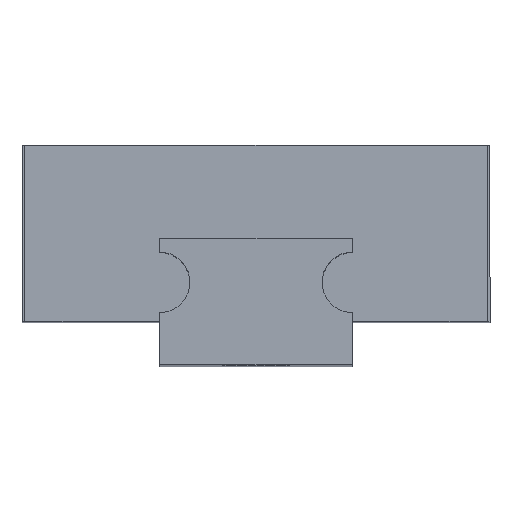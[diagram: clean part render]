
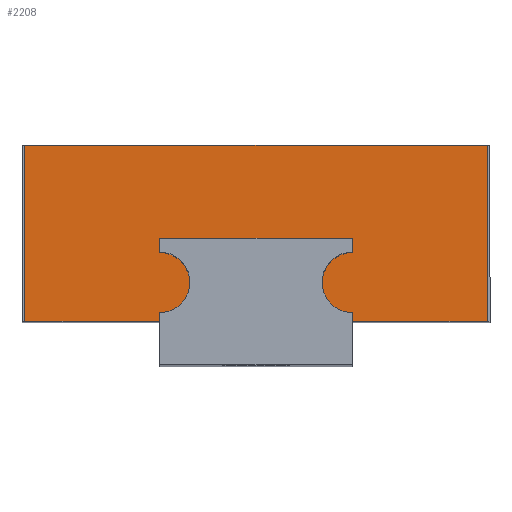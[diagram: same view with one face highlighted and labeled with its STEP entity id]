
A CAD part, top view. The second image highlights one B-rep face of the part: STEP entity #2208.
In plain terms, the highlighted planar face has unit normal (0, 0, 1).
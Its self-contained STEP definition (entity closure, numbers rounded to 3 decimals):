
#17 = CARTESIAN_POINT ( 'NONE',  ( -3.5, -2.9, 16.4 ) ) ;
#22 = DIRECTION ( 'NONE',  ( 1., 0., 0. ) ) ;
#27 = VERTEX_POINT ( 'NONE', #1662 ) ;
#57 = VECTOR ( 'NONE', #1113, 1000. ) ;
#69 = CARTESIAN_POINT ( 'NONE',  ( 3.5, -2.9, 16.4 ) ) ;
#82 = CIRCLE ( 'NONE', #1192, 1.1 ) ;
#127 = VECTOR ( 'NONE', #757, 1000. ) ;
#167 = LINE ( 'NONE', #2499, #1027 ) ;
#181 = CARTESIAN_POINT ( 'NONE',  ( -3.5, -1.8, 16.4 ) ) ;
#185 = VECTOR ( 'NONE', #2794, 1000. ) ;
#198 = CARTESIAN_POINT ( 'NONE',  ( -3.5, -0.2, 16.4 ) ) ;
#357 = VECTOR ( 'NONE', #2426, 1000. ) ;
#382 = LINE ( 'NONE', #69, #1255 ) ;
#388 = CARTESIAN_POINT ( 'NONE',  ( -2.4, -1.8, 16.4 ) ) ;
#394 = LINE ( 'NONE', #1892, #185 ) ;
#433 = VERTEX_POINT ( 'NONE', #1563 ) ;
#437 = DIRECTION ( 'NONE',  ( 0., 0., -1. ) ) ;
#471 = VERTEX_POINT ( 'NONE', #1342 ) ;
#575 = EDGE_CURVE ( 'NONE', #2496, #1284, #167, .T. ) ;
#646 = CARTESIAN_POINT ( 'NONE',  ( 8.4, 3.2, 16.4 ) ) ;
#684 = ORIENTED_EDGE ( 'NONE', *, *, #2788, .F. ) ;
#688 = ORIENTED_EDGE ( 'NONE', *, *, #989, .F. ) ;
#711 = ORIENTED_EDGE ( 'NONE', *, *, #994, .F. ) ;
#724 = VERTEX_POINT ( 'NONE', #1431 ) ;
#757 = DIRECTION ( 'NONE',  ( -1., 0., 0. ) ) ;
#793 = EDGE_CURVE ( 'NONE', #2492, #471, #1502, .T. ) ;
#843 = VECTOR ( 'NONE', #1815, 1000. ) ;
#844 = FACE_OUTER_BOUND ( 'NONE', #2702, .T. ) ;
#912 = VECTOR ( 'NONE', #1979, 1000. ) ;
#917 = LINE ( 'NONE', #2661, #1604 ) ;
#920 = ORIENTED_EDGE ( 'NONE', *, *, #1012, .T. ) ;
#923 = CARTESIAN_POINT ( 'NONE',  ( 3.5, -3.2, 16.4 ) ) ;
#928 = AXIS2_PLACEMENT_3D ( 'NONE', #181, #1721, #2147 ) ;
#989 = EDGE_CURVE ( 'NONE', #27, #2492, #2311, .T. ) ;
#994 = EDGE_CURVE ( 'NONE', #1284, #1506, #917, .T. ) ;
#1012 = EDGE_CURVE ( 'NONE', #724, #1644, #1199, .T. ) ;
#1027 = VECTOR ( 'NONE', #1615, 1000. ) ;
#1035 = EDGE_CURVE ( 'NONE', #1506, #27, #2733, .T. ) ;
#1097 = CARTESIAN_POINT ( 'NONE',  ( -3.5, -1.8, 16.4 ) ) ;
#1113 = DIRECTION ( 'NONE',  ( 0., -1., 0. ) ) ;
#1191 = ORIENTED_EDGE ( 'NONE', *, *, #2418, .F. ) ;
#1192 = AXIS2_PLACEMENT_3D ( 'NONE', #1276, #2256, #2562 ) ;
#1199 = LINE ( 'NONE', #646, #357 ) ;
#1242 = ORIENTED_EDGE ( 'NONE', *, *, #575, .F. ) ;
#1255 = VECTOR ( 'NONE', #2541, 1000. ) ;
#1260 = ORIENTED_EDGE ( 'NONE', *, *, #1393, .T. ) ;
#1270 = EDGE_CURVE ( 'NONE', #1644, #433, #1889, .T. ) ;
#1275 = CARTESIAN_POINT ( 'NONE',  ( -3.5, -3.2, 16.4 ) ) ;
#1276 = CARTESIAN_POINT ( 'NONE',  ( 3.5, -1.8, 16.4 ) ) ;
#1284 = VERTEX_POINT ( 'NONE', #1408 ) ;
#1331 = ORIENTED_EDGE ( 'NONE', *, *, #1270, .T. ) ;
#1337 = ORIENTED_EDGE ( 'NONE', *, *, #1672, .F. ) ;
#1342 = CARTESIAN_POINT ( 'NONE',  ( -3.5, -2.9, 16.4 ) ) ;
#1383 = CARTESIAN_POINT ( 'NONE',  ( 3.5, -2.9, 16.4 ) ) ;
#1393 = EDGE_CURVE ( 'NONE', #433, #2212, #394, .T. ) ;
#1408 = CARTESIAN_POINT ( 'NONE',  ( 3.5, -0.2, 16.4 ) ) ;
#1431 = CARTESIAN_POINT ( 'NONE',  ( 8.4, -3.2, 16.4 ) ) ;
#1437 = PLANE ( 'NONE',  #2185 ) ;
#1496 = LINE ( 'NONE', #17, #912 ) ;
#1502 = CIRCLE ( 'NONE', #928, 1.1 ) ;
#1506 = VERTEX_POINT ( 'NONE', #198 ) ;
#1507 = CARTESIAN_POINT ( 'NONE',  ( 8.4, 3.2, 16.4 ) ) ;
#1514 = AXIS2_PLACEMENT_3D ( 'NONE', #1097, #437, #22 ) ;
#1523 = LINE ( 'NONE', #2395, #2472 ) ;
#1533 = ORIENTED_EDGE ( 'NONE', *, *, #2576, .T. ) ;
#1545 = VERTEX_POINT ( 'NONE', #1275 ) ;
#1563 = CARTESIAN_POINT ( 'NONE',  ( -8.4, 3.2, 16.4 ) ) ;
#1604 = VECTOR ( 'NONE', #2682, 1000. ) ;
#1615 = DIRECTION ( 'NONE',  ( 0., 1., 0. ) ) ;
#1644 = VERTEX_POINT ( 'NONE', #1507 ) ;
#1649 = CARTESIAN_POINT ( 'NONE',  ( 0., 0., 16.4 ) ) ;
#1662 = CARTESIAN_POINT ( 'NONE',  ( -3.5, -0.7, 16.4 ) ) ;
#1672 = EDGE_CURVE ( 'NONE', #471, #1545, #1496, .T. ) ;
#1681 = ORIENTED_EDGE ( 'NONE', *, *, #793, .F. ) ;
#1721 = DIRECTION ( 'NONE',  ( 0., 0., -1. ) ) ;
#1815 = DIRECTION ( 'NONE',  ( 1., 0., 0. ) ) ;
#1866 = VERTEX_POINT ( 'NONE', #1383 ) ;
#1867 = CARTESIAN_POINT ( 'NONE',  ( -8.4, -3.2, 16.4 ) ) ;
#1889 = LINE ( 'NONE', #2296, #127 ) ;
#1892 = CARTESIAN_POINT ( 'NONE',  ( -8.4, 3.2, 16.4 ) ) ;
#1965 = DIRECTION ( 'NONE',  ( 1., 0., 0. ) ) ;
#1979 = DIRECTION ( 'NONE',  ( 0., -1., 0. ) ) ;
#2080 = CARTESIAN_POINT ( 'NONE',  ( -3.5, -0.2, 16.4 ) ) ;
#2147 = DIRECTION ( 'NONE',  ( 1., 0., 0. ) ) ;
#2176 = CARTESIAN_POINT ( 'NONE',  ( 3.5, -0.7, 16.4 ) ) ;
#2185 = AXIS2_PLACEMENT_3D ( 'NONE', #1649, #2749, #2322 ) ;
#2208 = ADVANCED_FACE ( 'NONE', ( #844 ), #1437, .T. ) ;
#2212 = VERTEX_POINT ( 'NONE', #1867 ) ;
#2245 = ORIENTED_EDGE ( 'NONE', *, *, #2688, .T. ) ;
#2256 = DIRECTION ( 'NONE',  ( 0., 0., -1. ) ) ;
#2265 = LINE ( 'NONE', #2478, #843 ) ;
#2296 = CARTESIAN_POINT ( 'NONE',  ( -8.4, 3.2, 16.4 ) ) ;
#2308 = ORIENTED_EDGE ( 'NONE', *, *, #1035, .F. ) ;
#2311 = CIRCLE ( 'NONE', #1514, 1.1 ) ;
#2322 = DIRECTION ( 'NONE',  ( 1., 0., 0. ) ) ;
#2395 = CARTESIAN_POINT ( 'NONE',  ( -8.4, -3.2, 16.4 ) ) ;
#2418 = EDGE_CURVE ( 'NONE', #1866, #2496, #82, .T. ) ;
#2426 = DIRECTION ( 'NONE',  ( 0., 1., 0. ) ) ;
#2472 = VECTOR ( 'NONE', #1965, 1000. ) ;
#2478 = CARTESIAN_POINT ( 'NONE',  ( -8.4, -3.2, 16.4 ) ) ;
#2492 = VERTEX_POINT ( 'NONE', #388 ) ;
#2496 = VERTEX_POINT ( 'NONE', #2176 ) ;
#2499 = CARTESIAN_POINT ( 'NONE',  ( 3.5, -0.2, 16.4 ) ) ;
#2541 = DIRECTION ( 'NONE',  ( 0., 1., 0. ) ) ;
#2562 = DIRECTION ( 'NONE',  ( 1., 0., 0. ) ) ;
#2576 = EDGE_CURVE ( 'NONE', #2212, #1545, #1523, .T. ) ;
#2654 = VERTEX_POINT ( 'NONE', #923 ) ;
#2661 = CARTESIAN_POINT ( 'NONE',  ( -3.5, -0.2, 16.4 ) ) ;
#2682 = DIRECTION ( 'NONE',  ( -1., 0., 0. ) ) ;
#2688 = EDGE_CURVE ( 'NONE', #2654, #724, #2265, .T. ) ;
#2702 = EDGE_LOOP ( 'NONE', ( #684, #2245, #920, #1331, #1260, #1533, #1337, #1681, #688, #2308, #711, #1242, #1191 ) ) ;
#2733 = LINE ( 'NONE', #2080, #57 ) ;
#2749 = DIRECTION ( 'NONE',  ( 0., 0., 1. ) ) ;
#2788 = EDGE_CURVE ( 'NONE', #2654, #1866, #382, .T. ) ;
#2794 = DIRECTION ( 'NONE',  ( 0., -1., 0. ) ) ;
